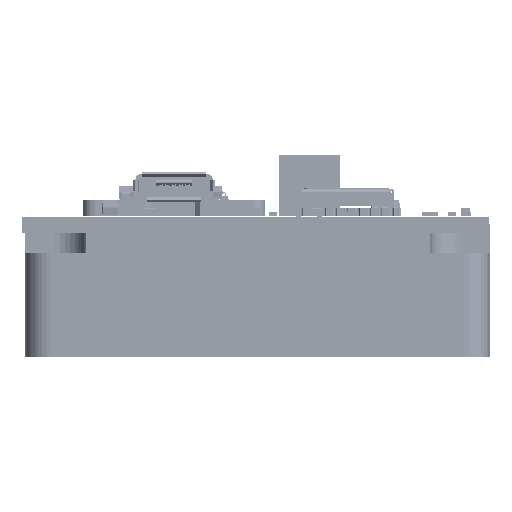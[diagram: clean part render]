
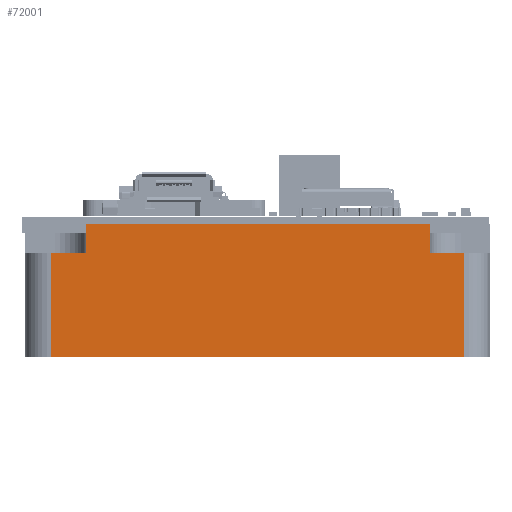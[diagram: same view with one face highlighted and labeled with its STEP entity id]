
A CAD part, front view. The second image highlights one B-rep face of the part: STEP entity #72001.
In plain terms, the highlighted planar face has unit normal (0, -1, 0) as drawn and (0, 1, 0) by its records, which use the part's own axes.
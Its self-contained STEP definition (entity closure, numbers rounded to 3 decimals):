
#72001 = ADVANCED_FACE('',(#72002),#72068,.T.);
#72002 = FACE_BOUND('',#72003,.T.);
#72003 = EDGE_LOOP('',(#72004,#72014,#72022,#72030,#72038,#72046,#72054,
    #72062));
#72004 = ORIENTED_EDGE('',*,*,#72005,.F.);
#72005 = EDGE_CURVE('',#72006,#72008,#72010,.T.);
#72006 = VERTEX_POINT('',#72007);
#72007 = CARTESIAN_POINT('',(451.71,513.59,-10.2));
#72008 = VERTEX_POINT('',#72009);
#72009 = CARTESIAN_POINT('',(455.06,513.59,-10.2));
#72010 = LINE('',#72011,#72012);
#72011 = CARTESIAN_POINT('',(455.06,513.59,-10.2));
#72012 = VECTOR('',#72013,1.);
#72013 = DIRECTION('',(1.,-0.,-0.));
#72014 = ORIENTED_EDGE('',*,*,#72015,.T.);
#72015 = EDGE_CURVE('',#72006,#72016,#72018,.T.);
#72016 = VERTEX_POINT('',#72017);
#72017 = CARTESIAN_POINT('',(451.71,513.59,0.));
#72018 = LINE('',#72019,#72020);
#72019 = CARTESIAN_POINT('',(451.71,513.59,-13.));
#72020 = VECTOR('',#72021,1.);
#72021 = DIRECTION('',(-0.,-0.,1.));
#72022 = ORIENTED_EDGE('',*,*,#72023,.F.);
#72023 = EDGE_CURVE('',#72024,#72016,#72026,.T.);
#72024 = VERTEX_POINT('',#72025);
#72025 = CARTESIAN_POINT('',(491.91,513.59,0.));
#72026 = LINE('',#72027,#72028);
#72027 = CARTESIAN_POINT('',(449.31,513.59,0.));
#72028 = VECTOR('',#72029,1.);
#72029 = DIRECTION('',(-1.,0.,-0.));
#72030 = ORIENTED_EDGE('',*,*,#72031,.T.);
#72031 = EDGE_CURVE('',#72024,#72032,#72034,.T.);
#72032 = VERTEX_POINT('',#72033);
#72033 = CARTESIAN_POINT('',(491.91,513.59,-10.2));
#72034 = LINE('',#72035,#72036);
#72035 = CARTESIAN_POINT('',(491.91,513.59,-13.));
#72036 = VECTOR('',#72037,1.);
#72037 = DIRECTION('',(0.,0.,-1.));
#72038 = ORIENTED_EDGE('',*,*,#72039,.F.);
#72039 = EDGE_CURVE('',#72040,#72032,#72042,.T.);
#72040 = VERTEX_POINT('',#72041);
#72041 = CARTESIAN_POINT('',(488.56,513.59,-10.2));
#72042 = LINE('',#72043,#72044);
#72043 = CARTESIAN_POINT('',(494.41,513.59,-10.2));
#72044 = VECTOR('',#72045,1.);
#72045 = DIRECTION('',(1.,-0.,-0.));
#72046 = ORIENTED_EDGE('',*,*,#72047,.T.);
#72047 = EDGE_CURVE('',#72040,#72048,#72050,.T.);
#72048 = VERTEX_POINT('',#72049);
#72049 = CARTESIAN_POINT('',(488.56,513.59,-13.));
#72050 = LINE('',#72051,#72052);
#72051 = CARTESIAN_POINT('',(488.56,513.59,-10.2));
#72052 = VECTOR('',#72053,1.);
#72053 = DIRECTION('',(-0.,-0.,-1.));
#72054 = ORIENTED_EDGE('',*,*,#72055,.T.);
#72055 = EDGE_CURVE('',#72048,#72056,#72058,.T.);
#72056 = VERTEX_POINT('',#72057);
#72057 = CARTESIAN_POINT('',(455.06,513.59,-13.));
#72058 = LINE('',#72059,#72060);
#72059 = CARTESIAN_POINT('',(449.31,513.59,-13.));
#72060 = VECTOR('',#72061,1.);
#72061 = DIRECTION('',(-1.,0.,-0.));
#72062 = ORIENTED_EDGE('',*,*,#72063,.F.);
#72063 = EDGE_CURVE('',#72008,#72056,#72064,.T.);
#72064 = LINE('',#72065,#72066);
#72065 = CARTESIAN_POINT('',(455.06,513.59,-10.2));
#72066 = VECTOR('',#72067,1.);
#72067 = DIRECTION('',(-0.,-0.,-1.));
#72068 = PLANE('',#72069);
#72069 = AXIS2_PLACEMENT_3D('',#72070,#72071,#72072);
#72070 = CARTESIAN_POINT('',(449.31,513.59,-13.));
#72071 = DIRECTION('',(0.,1.,0.));
#72072 = DIRECTION('',(-1.,0.,0.));
